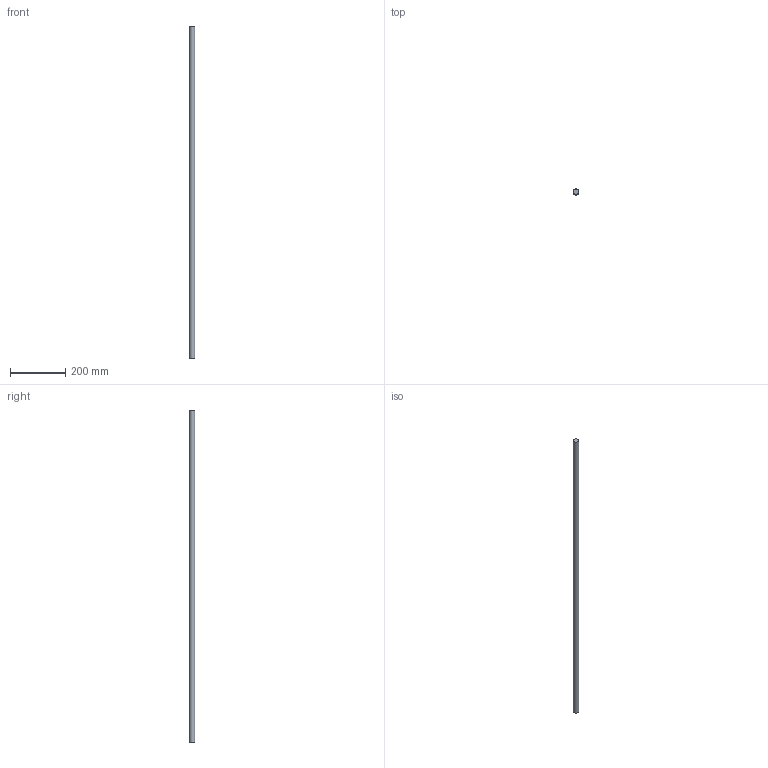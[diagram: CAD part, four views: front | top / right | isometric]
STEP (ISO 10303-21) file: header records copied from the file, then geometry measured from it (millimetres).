
FILE_DESCRIPTION(/* description */ (''),/* implementation_level */ '2;1');
FILE_NAME(/* name */ 'C:\Users\David\Desktop\stepFiles\Profilfuehrung\WF20x1200.stp',/* time_stamp */ '2018-06-24T15:49:04+02:00',/* author */ ('David'),/* organization */ (''),/* preprocessor_version */ 'ST-DEVELOPER v17',/* originating_system */ 'Autodesk Inventor 2019',/* authorisation */ '');
FILE_SCHEMA (('AUTOMOTIVE_DESIGN { 1 0 10303 214 3 1 1 }'));
Length unit declared in the file: millimetre
Products named in the file (1): Wellenfuehrung
Bounding box: 20 x 20 x 1200 mm (x, y, z)
Volume: 376991.1 mm3; surface area: 76026.5 mm2
Topology: 1 solids, 1 shells, 3 faces, 3 edges, 2 vertices
Faces by surface type: plane 2, cylinder 1
Full cylindrical faces by diameter (mm): 20 x1
Entity records: 98 total; most frequent: DIRECTION 13, CARTESIAN_POINT 9, ORIENTED_EDGE 6, AXIS2_PLACEMENT_3D 6, FACE_OUTER_BOUND 3, EDGE_LOOP 3, EDGE_CURVE 3, ADVANCED_FACE 3
